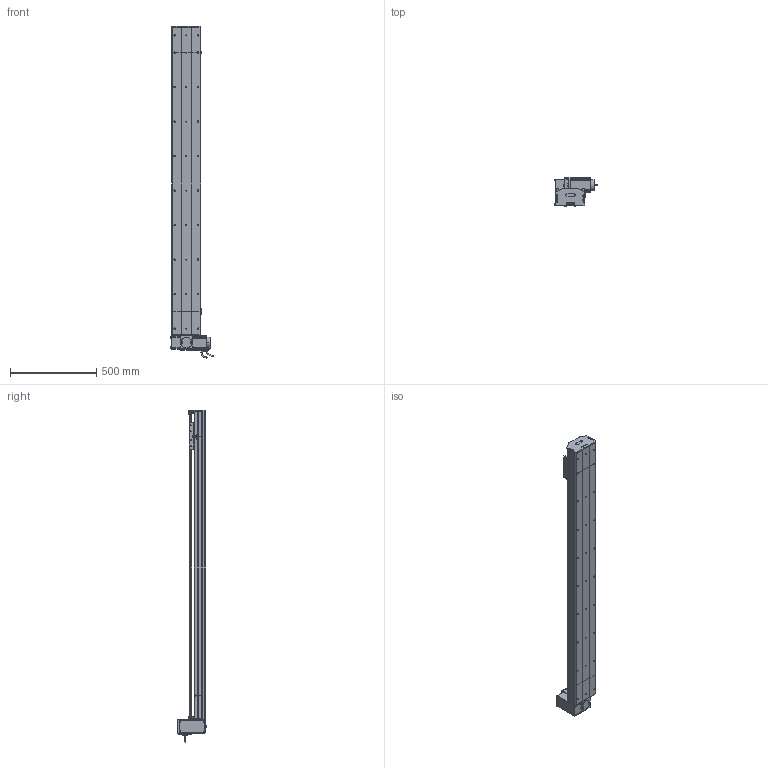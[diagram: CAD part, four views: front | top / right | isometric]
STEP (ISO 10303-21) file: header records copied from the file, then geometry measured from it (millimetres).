
FILE_DESCRIPTION (( 'STEP AP214' ), '1' );
FILE_NAME ('D17 TBH RT S1500.STEP', '2010-06-30T08:07:43', ( 'Christophe Gaillard' ), ( 'SGA' ), 'SwSTEP 2.0', 'SolidWorks 2010', '' );
FILE_SCHEMA (( 'AUTOMOTIVE_DESIGN' ));
Length unit declared in the file: millimetre
Products named in the file (40): Chariot D17; Moteur motionking 90BLDC125A-640; Couroie+ rail D17 Course 1500 ; cache D17_Default; poulie head_Default; vis M5 L5_Default; Arbre+rail head D17B; plaque de  bout head D17B RT_Default; couvercle D17B head_Default; corp D17B 1500_Default; couroie head D17_Default; corpl head D17 _Default; Head RT D17B_Default; couvercle D17B course L1500_Default; guide D17; chariot D17S_Default; vis M5 L25_Default; vis M5 L8 90°_Default; couvercle D17B_Default; Couroie tail D17B_Default; poulie tail_Default; avant 90BLDC125A-640; Rail D17B; tete d''axe poulie D17B; corps 90BLDC125A-640; plaque de  bout tail D17B_Default; corp tail D17B+100_Default; codeur 90BLDC125-640; Tail D17B+100_Default; Conecteur_Default; Conecteur2_Default; Renvoi RT_Default; cache arbre D17_Default; vis M5 L70_Default; Plaque racord D17_Default; Vis M5 L16-2_Default; vis M5 L16_Default; vis M5 L12_Default; course 1500 D17B_Default; D17 TBH RT S1500
Assembly tree (70 placements, depth 4):
  D17 TBH RT S1500
    chariot D17S_Default
      guide D17  x2
      vis M5 L12_Default  x4
      Chariot D17
    Head RT D17B_Default
      Vis M5 L16-2_Default  x4
      couroie head D17_Default
      vis M5 L12_Default  x8
      corpl head D17 _Default
      vis M5 L70_Default  x4
      vis M5 L5_Default  x4
      cache D17_Default  x2
      vis M5 L16_Default  x2
      poulie head_Default
      vis M5 L25_Default  x2
      Renvoi RT_Default
      Moteur motionking 90BLDC125A-640
        Conecteur2_Default
        codeur 90BLDC125-640
        corps 90BLDC125A-640
        Conecteur_Default
        avant 90BLDC125A-640
      Arbre+rail head D17B
      cache arbre D17_Default
      Plaque racord D17_Default
      plaque de  bout head D17B RT_Default
      couvercle D17B head_Default
    Tail D17B+100_Default
      plaque de  bout tail D17B_Default
      vis M5 L25_Default  x2
      poulie tail_Default
      vis M5 L12_Default  x4
      couvercle D17B_Default
      vis M5 L8 90°_Default  x2
      corp tail D17B+100_Default
      Rail D17B
      Couroie tail D17B_Default
      tete d''axe poulie D17B
    course 1500 D17B_Default
      couvercle D17B course L1500_Default
      corp D17B 1500_Default
      Couroie+ rail D17 Course 1500 
Bounding box: 245.2 x 166.15 x 1923.95 mm (x, y, z)
Volume: 11733024.2 mm3; surface area: 3328952.7 mm2
Topology: 94 solids, 94 shells, 2693 faces, 6795 edges, 4374 vertices
Faces by surface type: plane 1611, cylinder 769, bspline 136, cone 88, torus 85, sphere 4
Entity records: 84466 total; most frequent: CARTESIAN_POINT 24951, ORIENTED_EDGE 10362, DIRECTION 9830, EDGE_CURVE 5181, LINE 3456, VECTOR 3456, VERTEX_POINT 3398, AXIS2_PLACEMENT_3D 3187
